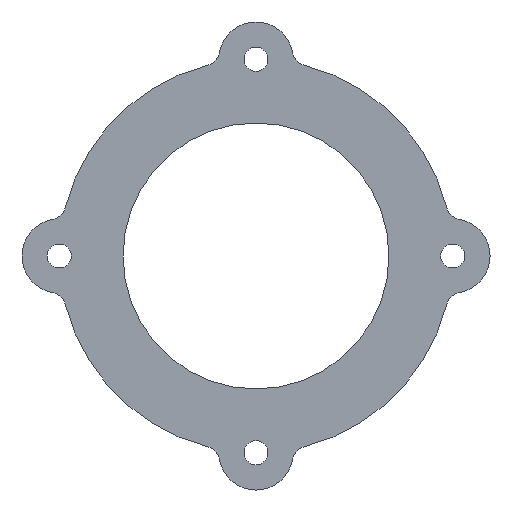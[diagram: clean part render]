
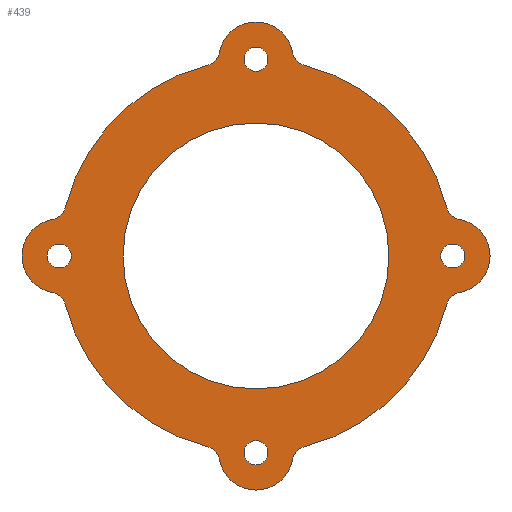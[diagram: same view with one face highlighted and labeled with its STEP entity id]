
A CAD part, left-side view. The second image highlights one B-rep face of the part: STEP entity #439.
In plain terms, the highlighted planar face has unit normal (-1, 0, 0).
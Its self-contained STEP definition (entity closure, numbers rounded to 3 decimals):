
#15=FACE_BOUND('',#71,.T.);
#16=FACE_BOUND('',#72,.T.);
#17=FACE_BOUND('',#73,.T.);
#18=FACE_BOUND('',#74,.T.);
#19=FACE_BOUND('',#75,.T.);
#25=PLANE('',#525);
#47=FACE_OUTER_BOUND('',#70,.T.);
#70=EDGE_LOOP('',(#352,#353,#354,#355,#356,#357,#358,#359,#360,#361,#362,
#363,#364,#365,#366,#367));
#71=EDGE_LOOP('',(#368));
#72=EDGE_LOOP('',(#369));
#73=EDGE_LOOP('',(#370));
#74=EDGE_LOOP('',(#371));
#75=EDGE_LOOP('',(#372));
#126=CIRCLE('',#467,3.);
#128=CIRCLE('',#470,37.);
#129=CIRCLE('',#472,3.);
#131=CIRCLE('',#475,37.);
#134=CIRCLE('',#479,3.);
#136=CIRCLE('',#482,3.);
#137=CIRCLE('',#484,7.);
#140=CIRCLE('',#488,3.);
#141=CIRCLE('',#490,37.);
#144=CIRCLE('',#494,3.);
#145=CIRCLE('',#496,7.);
#148=CIRCLE('',#500,3.);
#149=CIRCLE('',#502,37.);
#152=CIRCLE('',#506,3.);
#153=CIRCLE('',#508,7.);
#155=CIRCLE('',#511,25.);
#157=CIRCLE('',#514,2.25);
#159=CIRCLE('',#517,2.25);
#161=CIRCLE('',#520,2.25);
#163=CIRCLE('',#523,2.25);
#165=CIRCLE('',#526,7.);
#169=VERTEX_POINT('',#688);
#170=VERTEX_POINT('',#690);
#172=VERTEX_POINT('',#696);
#173=VERTEX_POINT('',#700);
#174=VERTEX_POINT('',#701);
#177=VERTEX_POINT('',#709);
#180=VERTEX_POINT('',#717);
#183=VERTEX_POINT('',#724);
#184=VERTEX_POINT('',#726);
#187=VERTEX_POINT('',#736);
#188=VERTEX_POINT('',#738);
#191=VERTEX_POINT('',#748);
#192=VERTEX_POINT('',#750);
#195=VERTEX_POINT('',#760);
#196=VERTEX_POINT('',#762);
#198=VERTEX_POINT('',#771);
#199=VERTEX_POINT('',#778);
#201=VERTEX_POINT('',#784);
#203=VERTEX_POINT('',#790);
#205=VERTEX_POINT('',#796);
#207=VERTEX_POINT('',#802);
#211=EDGE_CURVE('',#169,#170,#126,.T.);
#215=EDGE_CURVE('',#169,#172,#128,.T.);
#216=EDGE_CURVE('',#173,#174,#129,.T.);
#220=EDGE_CURVE('',#177,#174,#131,.T.);
#224=EDGE_CURVE('',#177,#180,#134,.T.);
#228=EDGE_CURVE('',#183,#184,#136,.T.);
#230=EDGE_CURVE('',#183,#180,#137,.T.);
#234=EDGE_CURVE('',#187,#188,#140,.T.);
#236=EDGE_CURVE('',#187,#184,#141,.T.);
#240=EDGE_CURVE('',#191,#192,#144,.T.);
#242=EDGE_CURVE('',#191,#188,#145,.T.);
#246=EDGE_CURVE('',#195,#196,#148,.T.);
#248=EDGE_CURVE('',#195,#192,#149,.T.);
#252=EDGE_CURVE('',#198,#172,#152,.T.);
#253=EDGE_CURVE('',#198,#196,#153,.T.);
#255=EDGE_CURVE('',#199,#199,#155,.T.);
#258=EDGE_CURVE('',#201,#201,#157,.T.);
#261=EDGE_CURVE('',#203,#203,#159,.T.);
#264=EDGE_CURVE('',#205,#205,#161,.T.);
#267=EDGE_CURVE('',#207,#207,#163,.T.);
#270=EDGE_CURVE('',#173,#170,#165,.T.);
#352=ORIENTED_EDGE('',*,*,#270,.T.);
#353=ORIENTED_EDGE('',*,*,#211,.F.);
#354=ORIENTED_EDGE('',*,*,#215,.T.);
#355=ORIENTED_EDGE('',*,*,#252,.F.);
#356=ORIENTED_EDGE('',*,*,#253,.T.);
#357=ORIENTED_EDGE('',*,*,#246,.F.);
#358=ORIENTED_EDGE('',*,*,#248,.T.);
#359=ORIENTED_EDGE('',*,*,#240,.F.);
#360=ORIENTED_EDGE('',*,*,#242,.T.);
#361=ORIENTED_EDGE('',*,*,#234,.F.);
#362=ORIENTED_EDGE('',*,*,#236,.T.);
#363=ORIENTED_EDGE('',*,*,#228,.F.);
#364=ORIENTED_EDGE('',*,*,#230,.T.);
#365=ORIENTED_EDGE('',*,*,#224,.F.);
#366=ORIENTED_EDGE('',*,*,#220,.T.);
#367=ORIENTED_EDGE('',*,*,#216,.F.);
#368=ORIENTED_EDGE('',*,*,#255,.T.);
#369=ORIENTED_EDGE('',*,*,#258,.T.);
#370=ORIENTED_EDGE('',*,*,#261,.T.);
#371=ORIENTED_EDGE('',*,*,#264,.T.);
#372=ORIENTED_EDGE('',*,*,#267,.T.);
#439=ADVANCED_FACE('',(#47,#15,#16,#17,#18,#19),#25,.F.);
#467=AXIS2_PLACEMENT_3D('',#691,#537,#538);
#470=AXIS2_PLACEMENT_3D('',#698,#545,#546);
#472=AXIS2_PLACEMENT_3D('',#702,#549,#550);
#475=AXIS2_PLACEMENT_3D('',#710,#557,#558);
#479=AXIS2_PLACEMENT_3D('',#718,#566,#567);
#482=AXIS2_PLACEMENT_3D('',#727,#574,#575);
#484=AXIS2_PLACEMENT_3D('',#730,#579,#580);
#488=AXIS2_PLACEMENT_3D('',#739,#588,#589);
#490=AXIS2_PLACEMENT_3D('',#742,#593,#594);
#494=AXIS2_PLACEMENT_3D('',#751,#602,#603);
#496=AXIS2_PLACEMENT_3D('',#754,#607,#608);
#500=AXIS2_PLACEMENT_3D('',#763,#616,#617);
#502=AXIS2_PLACEMENT_3D('',#766,#621,#622);
#506=AXIS2_PLACEMENT_3D('',#773,#630,#631);
#508=AXIS2_PLACEMENT_3D('',#775,#634,#635);
#511=AXIS2_PLACEMENT_3D('',#779,#640,#641);
#514=AXIS2_PLACEMENT_3D('',#785,#647,#648);
#517=AXIS2_PLACEMENT_3D('',#791,#654,#655);
#520=AXIS2_PLACEMENT_3D('',#797,#661,#662);
#523=AXIS2_PLACEMENT_3D('',#803,#668,#669);
#525=AXIS2_PLACEMENT_3D('',#807,#673,#674);
#526=AXIS2_PLACEMENT_3D('',#808,#675,#676);
#537=DIRECTION('center_axis',(-1.,0.,0.));
#538=DIRECTION('ref_axis',(0.,-0.732,-0.682));
#545=DIRECTION('center_axis',(-1.,0.,0.));
#546=DIRECTION('ref_axis',(0.,-0.982,-0.188));
#549=DIRECTION('center_axis',(-1.,0.,0.));
#550=DIRECTION('ref_axis',(0.,0.732,-0.682));
#557=DIRECTION('center_axis',(-1.,0.,0.));
#558=DIRECTION('ref_axis',(0.,0.188,-0.982));
#566=DIRECTION('center_axis',(-1.,0.,0.));
#567=DIRECTION('ref_axis',(0.,0.682,-0.732));
#574=DIRECTION('center_axis',(-1.,0.,0.));
#575=DIRECTION('ref_axis',(0.,0.682,0.732));
#579=DIRECTION('center_axis',(-1.,0.,0.));
#580=DIRECTION('ref_axis',(0.,-0.095,-0.996));
#588=DIRECTION('center_axis',(-1.,0.,0.));
#589=DIRECTION('ref_axis',(0.,0.732,0.682));
#593=DIRECTION('center_axis',(-1.,0.,0.));
#594=DIRECTION('ref_axis',(0.,0.982,0.188));
#602=DIRECTION('center_axis',(-1.,0.,0.));
#603=DIRECTION('ref_axis',(0.,-0.732,0.682));
#607=DIRECTION('center_axis',(-1.,0.,0.));
#608=DIRECTION('ref_axis',(0.,0.996,-0.095));
#616=DIRECTION('center_axis',(-1.,0.,0.));
#617=DIRECTION('ref_axis',(0.,-0.682,0.732));
#621=DIRECTION('center_axis',(-1.,0.,0.));
#622=DIRECTION('ref_axis',(0.,-0.188,0.982));
#630=DIRECTION('center_axis',(-1.,0.,0.));
#631=DIRECTION('ref_axis',(0.,-0.682,-0.732));
#634=DIRECTION('center_axis',(-1.,0.,0.));
#635=DIRECTION('ref_axis',(0.,0.095,0.996));
#640=DIRECTION('center_axis',(1.,0.,0.));
#641=DIRECTION('ref_axis',(0.,-1.,0.));
#647=DIRECTION('center_axis',(1.,0.,0.));
#648=DIRECTION('ref_axis',(0.,-1.,0.));
#654=DIRECTION('center_axis',(1.,0.,0.));
#655=DIRECTION('ref_axis',(0.,-1.,0.));
#661=DIRECTION('center_axis',(1.,0.,0.));
#662=DIRECTION('ref_axis',(0.,-1.,0.));
#668=DIRECTION('center_axis',(1.,0.,0.));
#669=DIRECTION('ref_axis',(0.,-1.,0.));
#673=DIRECTION('center_axis',(1.,0.,0.));
#674=DIRECTION('ref_axis',(0.,0.,-1.));
#675=DIRECTION('center_axis',(-1.,0.,0.));
#676=DIRECTION('ref_axis',(0.,-0.996,0.095));
#688=CARTESIAN_POINT('',(-0.5,9.104,35.863));
#690=CARTESIAN_POINT('',(-0.5,6.889,38.239));
#691=CARTESIAN_POINT('Origin',(-0.5,9.842,38.77));
#696=CARTESIAN_POINT('',(-0.5,35.863,9.104));
#698=CARTESIAN_POINT('Origin',(-0.5,0.,0.));
#700=CARTESIAN_POINT('',(-0.5,-6.889,38.239));
#701=CARTESIAN_POINT('',(-0.5,-9.104,35.863));
#702=CARTESIAN_POINT('Origin',(-0.5,-9.842,38.77));
#709=CARTESIAN_POINT('',(-0.5,-35.863,9.104));
#710=CARTESIAN_POINT('Origin',(-0.5,0.,0.));
#717=CARTESIAN_POINT('',(-0.5,-38.239,6.889));
#718=CARTESIAN_POINT('Origin',(-0.5,-38.77,9.842));
#724=CARTESIAN_POINT('',(-0.5,-38.239,-6.889));
#726=CARTESIAN_POINT('',(-0.5,-35.863,-9.104));
#727=CARTESIAN_POINT('Origin',(-0.5,-38.77,-9.842));
#730=CARTESIAN_POINT('Origin',(-0.5,-37.,0.));
#736=CARTESIAN_POINT('',(-0.5,-9.104,-35.863));
#738=CARTESIAN_POINT('',(-0.5,-6.889,-38.239));
#739=CARTESIAN_POINT('Origin',(-0.5,-9.842,-38.77));
#742=CARTESIAN_POINT('Origin',(-0.5,0.,0.));
#748=CARTESIAN_POINT('',(-0.5,6.889,-38.239));
#750=CARTESIAN_POINT('',(-0.5,9.104,-35.863));
#751=CARTESIAN_POINT('Origin',(-0.5,9.842,-38.77));
#754=CARTESIAN_POINT('Origin',(-0.5,0.,-37.));
#760=CARTESIAN_POINT('',(-0.5,35.863,-9.104));
#762=CARTESIAN_POINT('',(-0.5,38.239,-6.889));
#763=CARTESIAN_POINT('Origin',(-0.5,38.77,-9.842));
#766=CARTESIAN_POINT('Origin',(-0.5,0.,0.));
#771=CARTESIAN_POINT('',(-0.5,38.239,6.889));
#773=CARTESIAN_POINT('Origin',(-0.5,38.77,9.842));
#775=CARTESIAN_POINT('Origin',(-0.5,37.,0.));
#778=CARTESIAN_POINT('',(-0.5,25.,0.));
#779=CARTESIAN_POINT('Origin',(-0.5,0.,0.));
#784=CARTESIAN_POINT('',(-0.5,39.25,0.));
#785=CARTESIAN_POINT('Origin',(-0.5,37.,0.));
#790=CARTESIAN_POINT('',(-0.5,2.25,-37.));
#791=CARTESIAN_POINT('Origin',(-0.5,0.,-37.));
#796=CARTESIAN_POINT('',(-0.5,-34.75,0.));
#797=CARTESIAN_POINT('Origin',(-0.5,-37.,0.));
#802=CARTESIAN_POINT('',(-0.5,2.25,37.));
#803=CARTESIAN_POINT('Origin',(-0.5,0.,37.));
#807=CARTESIAN_POINT('Origin',(-0.5,0.,0.));
#808=CARTESIAN_POINT('Origin',(-0.5,0.,37.));
